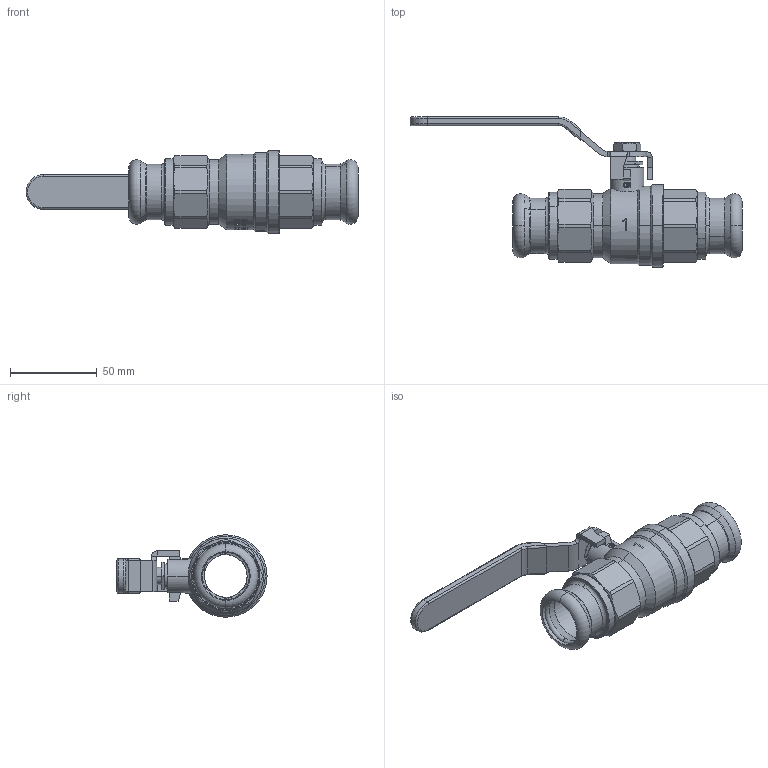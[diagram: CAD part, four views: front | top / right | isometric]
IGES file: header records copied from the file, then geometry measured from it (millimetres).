
Global section: file name: No Iges File Name specified; native system: AutoDesk Inventor R12.0; preprocessor: AutoDesk Inventor Iges Exporter R12.0; date: 20120118.121010; units: millimetre
Bounding box: 191.2 x 86.42 x 47.5 mm (x, y, z)
Volume: 103356.9 mm3; surface area: 49126.3 mm2
Topology: 1 solids, 1 shells, 674 faces, 2150 edges, 1587 vertices
Faces by surface type: plane 294, bspline 115, revolution 88, cylinder 86, cone 67, torus 24
